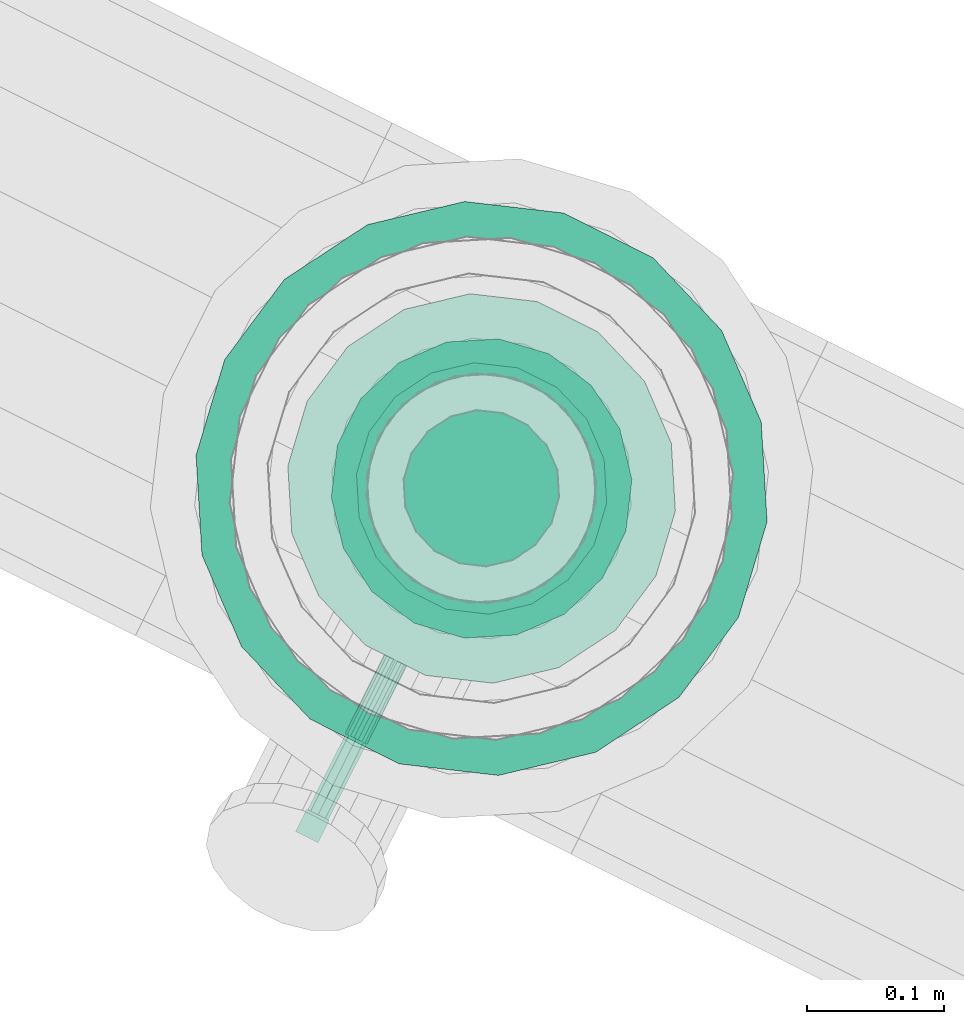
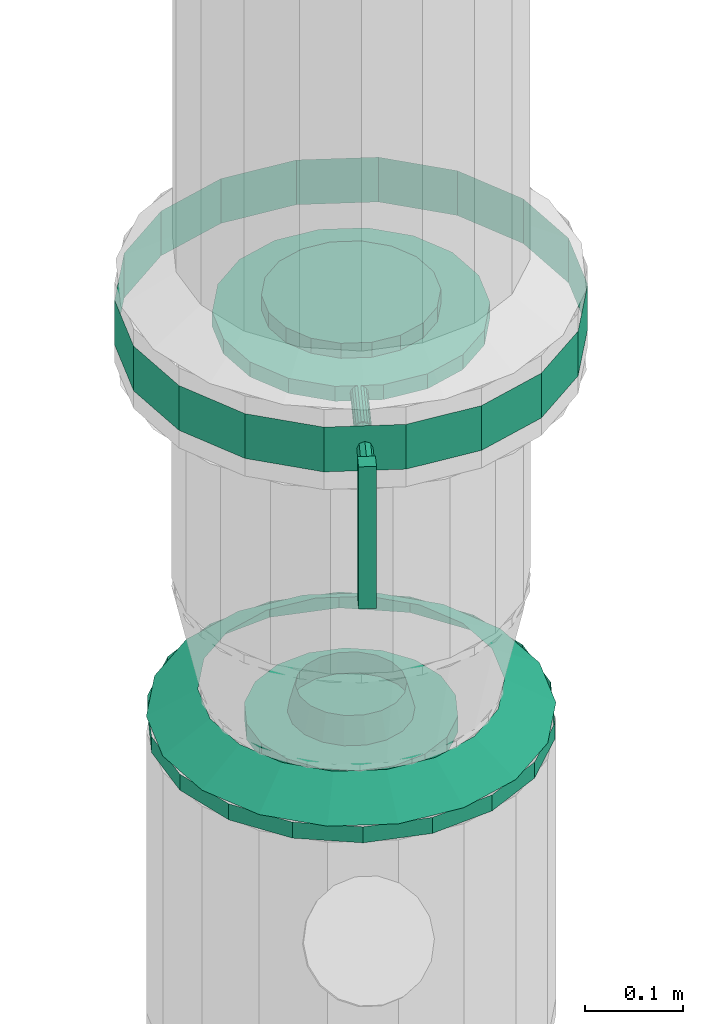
# One storey, part 60 of 152: 1 flow controller, 1 flow fitting.
"""IFC2X3 building model written with IfcOpenShell, lengths in metres."""

from ifc_helpers import new_model, si_unit, derived_unit, direction, frame, origin, place, context, subcontext, project, spatial, face_set, surface_model, source, transform, mapped, material, type_object, type_shapes, element, save


model = new_model("IFC2X3")

# Units and contexts
model_context = context("Model", 3, precision=5.2338327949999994e-05, world=origin(), true_north=direction((0.0, 1.0)))
body_context = subcontext(model_context, "Body", "Model", "MODEL_VIEW")
ifc_project = project(units=[si_unit("LENGTHUNIT", "METRE"), si_unit("AREAUNIT", "SQUARE_METRE"), si_unit("VOLUMEUNIT", "CUBIC_METRE"), si_unit("MASSUNIT", "GRAM", prefix="KILO"), si_unit("PLANEANGLEUNIT", "RADIAN"), derived_unit("THERMALTRANSMITTANCEUNIT", [(si_unit("MASSUNIT", "GRAM", prefix="KILO"), 1), (si_unit("THERMODYNAMICTEMPERATUREUNIT", "KELVIN"), -1), (si_unit("TIMEUNIT", "SECOND"), -3)])], contexts=[model_context])

# Site, building, storey
site_placement = place(None, frame((0.0, 0.0, 0.0), z_axis=(0.0, 0.0, 1.0), x_axis=(0.8939966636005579, -0.4480736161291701, 0.0)))
site = spatial("IfcSite", under=ifc_project, at=site_placement, Name="Default", CompositionType="ELEMENT")
building_placement = place(site_placement, origin())
building = spatial("IfcBuilding", under=site, at=building_placement, CompositionType="ELEMENT")
storey_placement = place(building_placement, frame((0.0, 0.0, 2.7499999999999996)))
storey = spatial("IfcBuildingStorey", under=building, at=storey_placement, Name="1. Obergeschoss", CompositionType="ELEMENT", Elevation=2.7499999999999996)

# Flow controller
ifc_material = material(Name="IfcSurfaceStyle #1741")
distribution_element_type_1 = type_object("IfcDistributionElementType", Name="Zwischenflanschklappe 614474:Zwischenflanschklappe 614474", material=ifc_material)
shared_shape_1 = source(origin(), body_context, "Body", "SurfaceModel", [
    surface_model("IfcFaceBasedSurfaceModel", [(25.449055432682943, 8.193115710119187, 4.2088834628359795), (25.449055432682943, 8.193115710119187, 4.38638346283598), (25.430655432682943, 8.193115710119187, 4.38638346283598), (25.430655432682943, 8.193115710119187, 4.2088834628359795), (25.430655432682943, 8.174715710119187, 4.386383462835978), (25.430655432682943, 8.174715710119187, 4.2088834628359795), (25.449055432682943, 8.174715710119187, 4.386383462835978), (25.449055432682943, 8.174715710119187, 4.2088834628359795), (25.347855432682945, 8.459715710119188, 4.349183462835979), (25.35340371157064, 8.428249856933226, 4.349183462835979), (25.35340371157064, 8.428249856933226, 4.367850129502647), (25.347855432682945, 8.459715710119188, 4.367850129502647), (25.36937934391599, 8.400579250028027, 4.349183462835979), (25.36937934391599, 8.400579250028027, 4.367850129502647), (25.393855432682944, 8.38004137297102, 4.349183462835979), (25.393855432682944, 8.38004137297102, 4.367850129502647), (25.423879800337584, 8.369113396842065, 4.349183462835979), (25.423879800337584, 8.369113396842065, 4.367850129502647), (25.455831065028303, 8.369113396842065, 4.349183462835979), (25.455831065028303, 8.369113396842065, 4.367850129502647), (25.485855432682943, 8.38004137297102, 4.349183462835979), (25.485855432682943, 8.38004137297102, 4.367850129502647), (25.51033152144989, 8.400579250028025, 4.349183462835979), (25.51033152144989, 8.400579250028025, 4.367850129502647), (25.52630715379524, 8.428249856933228, 4.349183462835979), (25.52630715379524, 8.428249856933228, 4.367850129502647), (25.531855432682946, 8.459715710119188, 4.349183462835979), (25.531855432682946, 8.459715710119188, 4.367850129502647), (25.526307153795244, 8.49118156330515, 4.349183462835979), (25.526307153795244, 8.49118156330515, 4.367850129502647), (25.51033152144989, 8.518852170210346, 4.349183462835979), (25.51033152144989, 8.518852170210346, 4.367850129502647), (25.485855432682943, 8.539390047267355, 4.349183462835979), (25.485855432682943, 8.539390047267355, 4.367850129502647), (25.455831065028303, 8.55031802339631, 4.349183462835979), (25.455831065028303, 8.55031802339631, 4.367850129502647), (25.423879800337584, 8.55031802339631, 4.349183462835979), (25.423879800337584, 8.55031802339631, 4.367850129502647), (25.393855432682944, 8.539390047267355, 4.349183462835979), (25.393855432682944, 8.539390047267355, 4.367850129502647), (25.36937934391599, 8.518852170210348, 4.349183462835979), (25.36937934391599, 8.518852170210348, 4.367850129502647), (25.35340371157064, 8.491181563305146, 4.349183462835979), (25.35340371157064, 8.491181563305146, 4.367850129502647), (25.43985543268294, 8.459715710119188, 4.349183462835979), (25.43985543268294, 8.459715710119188, 4.367850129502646), (25.29735543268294, 8.459715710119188, 4.367850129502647), (25.30594923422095, 8.410977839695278, 4.367850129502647), (25.30594923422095, 8.410977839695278, 4.386516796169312), (25.29735543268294, 8.459715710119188, 4.386516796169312), (25.33069409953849, 8.368118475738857, 4.367850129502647), (25.33069409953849, 8.368118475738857, 4.386516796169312), (25.368605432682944, 8.336307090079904, 4.367850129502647), (25.368605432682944, 8.336307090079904, 4.386516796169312), (25.415110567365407, 8.319380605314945, 4.367850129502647), (25.415110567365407, 8.319380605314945, 4.386516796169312), (25.46460029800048, 8.319380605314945, 4.367850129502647), (25.46460029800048, 8.319380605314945, 4.386516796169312), (25.511105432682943, 8.336307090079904, 4.367850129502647), (25.511105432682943, 8.336307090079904, 4.386516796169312), (25.549016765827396, 8.368118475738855, 4.367850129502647), (25.549016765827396, 8.368118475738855, 4.386516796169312), (25.57376163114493, 8.410977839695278, 4.367850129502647), (25.57376163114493, 8.410977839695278, 4.386516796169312), (25.582355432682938, 8.459715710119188, 4.367850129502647), (25.582355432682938, 8.459715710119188, 4.386516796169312), (25.57376163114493, 8.508453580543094, 4.367850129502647), (25.57376163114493, 8.508453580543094, 4.386516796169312), (25.549016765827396, 8.55131294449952, 4.367850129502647), (25.549016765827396, 8.55131294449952, 4.386516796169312), (25.511105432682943, 8.583124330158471, 4.367850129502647), (25.511105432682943, 8.583124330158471, 4.386516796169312), (25.46460029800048, 8.600050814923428, 4.367850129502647), (25.46460029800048, 8.600050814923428, 4.386516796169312), (25.415110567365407, 8.600050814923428, 4.367850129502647), (25.415110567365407, 8.600050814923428, 4.386516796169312), (25.368605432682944, 8.583124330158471, 4.367850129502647), (25.368605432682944, 8.583124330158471, 4.386516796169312), (25.33069409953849, 8.55131294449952, 4.367850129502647), (25.33069409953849, 8.55131294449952, 4.386516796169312), (25.30594923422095, 8.50845358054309, 4.367850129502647), (25.30594923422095, 8.50845358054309, 4.386516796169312), (25.43985543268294, 8.459715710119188, 4.386516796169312), (25.347855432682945, 8.459715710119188, 4.386516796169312), (25.35340371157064, 8.428249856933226, 4.386516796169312), (25.35340371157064, 8.428249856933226, 4.4051834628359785), (25.347855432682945, 8.459715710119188, 4.4051834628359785), (25.36937934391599, 8.400579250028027, 4.386516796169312), (25.36937934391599, 8.400579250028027, 4.4051834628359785), (25.393855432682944, 8.38004137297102, 4.386516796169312), (25.393855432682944, 8.38004137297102, 4.4051834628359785), (25.423879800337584, 8.369113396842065, 4.386516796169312), (25.423879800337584, 8.369113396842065, 4.4051834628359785), (25.455831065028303, 8.369113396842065, 4.386516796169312), (25.455831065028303, 8.369113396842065, 4.4051834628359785), (25.485855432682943, 8.38004137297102, 4.386516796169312), (25.485855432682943, 8.38004137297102, 4.4051834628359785), (25.51033152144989, 8.400579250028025, 4.386516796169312), (25.51033152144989, 8.400579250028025, 4.4051834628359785), (25.52630715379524, 8.428249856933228, 4.386516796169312), (25.52630715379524, 8.428249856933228, 4.4051834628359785), (25.531855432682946, 8.459715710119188, 4.386516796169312), (25.531855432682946, 8.459715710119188, 4.4051834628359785), (25.526307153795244, 8.49118156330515, 4.386516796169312), (25.526307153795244, 8.49118156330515, 4.4051834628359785), (25.51033152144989, 8.518852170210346, 4.386516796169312), (25.51033152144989, 8.518852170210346, 4.4051834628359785), (25.485855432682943, 8.539390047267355, 4.386516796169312), (25.485855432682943, 8.539390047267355, 4.4051834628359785), (25.455831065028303, 8.55031802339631, 4.386516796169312), (25.455831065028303, 8.55031802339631, 4.4051834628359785), (25.423879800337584, 8.55031802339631, 4.386516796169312), (25.423879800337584, 8.55031802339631, 4.4051834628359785), (25.393855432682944, 8.539390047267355, 4.386516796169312), (25.393855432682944, 8.539390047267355, 4.4051834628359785), (25.36937934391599, 8.518852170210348, 4.386516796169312), (25.36937934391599, 8.518852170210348, 4.4051834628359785), (25.35340371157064, 8.491181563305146, 4.386516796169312), (25.35340371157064, 8.491181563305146, 4.4051834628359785), (25.43985543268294, 8.459715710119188, 4.4051834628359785), (25.43052209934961, 8.459715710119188, 4.377183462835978), (25.431084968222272, 8.459715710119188, 4.373991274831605), (25.431084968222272, 8.255165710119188, 4.373991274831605), (25.43052209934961, 8.255165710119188, 4.377183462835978), (25.432705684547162, 8.459715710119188, 4.371184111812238), (25.432705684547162, 8.255165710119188, 4.371184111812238), (25.43518876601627, 8.459715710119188, 4.369100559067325), (25.43518876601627, 8.255165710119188, 4.369100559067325), (25.43823471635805, 8.459715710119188, 4.367991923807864), (25.43823471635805, 8.255165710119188, 4.367991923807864), (25.441476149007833, 8.459715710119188, 4.367991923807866), (25.441476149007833, 8.255165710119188, 4.367991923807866), (25.444522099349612, 8.459715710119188, 4.369100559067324), (25.444522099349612, 8.255165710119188, 4.369100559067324), (25.447005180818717, 8.459715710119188, 4.371184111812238), (25.447005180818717, 8.255165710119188, 4.371184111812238), (25.448625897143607, 8.459715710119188, 4.373991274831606), (25.448625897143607, 8.255165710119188, 4.373991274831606), (25.449188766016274, 8.459715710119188, 4.377183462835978), (25.449188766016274, 8.255165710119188, 4.377183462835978), (25.448625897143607, 8.459715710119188, 4.380375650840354), (25.448625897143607, 8.255165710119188, 4.380375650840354), (25.447005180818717, 8.459715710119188, 4.383182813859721), (25.447005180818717, 8.255165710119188, 4.383182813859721), (25.444522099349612, 8.459715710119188, 4.385266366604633), (25.444522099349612, 8.255165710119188, 4.385266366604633), (25.441476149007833, 8.459715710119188, 4.386375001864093), (25.441476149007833, 8.255165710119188, 4.386375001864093), (25.43823471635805, 8.459715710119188, 4.386375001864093), (25.43823471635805, 8.255165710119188, 4.386375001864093), (25.43518876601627, 8.459715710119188, 4.385266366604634), (25.43518876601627, 8.255165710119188, 4.385266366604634), (25.432705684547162, 8.459715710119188, 4.383182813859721), (25.432705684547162, 8.255165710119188, 4.383182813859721), (25.431084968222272, 8.459715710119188, 4.380375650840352), (25.431084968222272, 8.255165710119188, 4.380375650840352), (25.43985543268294, 8.459715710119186, 4.377183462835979), (25.43985543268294, 8.255165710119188, 4.377183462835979), (25.431440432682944, 8.255165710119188, 4.377183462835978), (25.43390512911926, 8.255165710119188, 4.371233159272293), (25.43390512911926, 8.193115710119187, 4.371233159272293), (25.431440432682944, 8.193115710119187, 4.377183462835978), (25.43985543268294, 8.255165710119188, 4.3687684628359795), (25.43985543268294, 8.193115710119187, 4.3687684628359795), (25.445805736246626, 8.255165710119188, 4.371233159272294), (25.445805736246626, 8.193115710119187, 4.371233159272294), (25.44827043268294, 8.255165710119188, 4.377183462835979), (25.44827043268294, 8.193115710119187, 4.377183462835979), (25.445805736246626, 8.255165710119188, 4.383133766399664), (25.445805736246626, 8.193115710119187, 4.383133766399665), (25.43985543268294, 8.255165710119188, 4.38559846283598), (25.43985543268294, 8.193115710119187, 4.38559846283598), (25.43390512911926, 8.255165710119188, 4.383133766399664), (25.43390512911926, 8.193115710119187, 4.383133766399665), (25.43985543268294, 8.193115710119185, 4.377183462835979), (25.19735543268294, 8.459715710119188, 4.349183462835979), (25.21197997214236, 8.376775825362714, 4.349183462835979), (25.21197997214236, 8.376775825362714, 4.4051834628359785), (25.19735543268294, 8.459715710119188, 4.4051834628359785), (25.25408965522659, 8.303839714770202, 4.349183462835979), (25.25408965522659, 8.303839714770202, 4.4051834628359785), (25.318605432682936, 8.249704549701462, 4.349183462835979), (25.318605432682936, 8.249704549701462, 4.4051834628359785), (25.397745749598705, 8.220899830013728, 4.349183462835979), (25.397745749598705, 8.220899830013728, 4.4051834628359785), (25.48196511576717, 8.220899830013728, 4.349183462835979), (25.48196511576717, 8.220899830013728, 4.4051834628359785), (25.56110543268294, 8.24970454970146, 4.349183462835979), (25.56110543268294, 8.24970454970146, 4.4051834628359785), (25.625621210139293, 8.3038397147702, 4.349183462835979), (25.625621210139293, 8.3038397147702, 4.4051834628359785), (25.66773089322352, 8.376775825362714, 4.349183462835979), (25.66773089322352, 8.376775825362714, 4.4051834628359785), (25.682355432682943, 8.459715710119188, 4.349183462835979), (25.682355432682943, 8.459715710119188, 4.4051834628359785), (25.667730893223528, 8.542655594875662, 4.349183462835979), (25.667730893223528, 8.542655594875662, 4.4051834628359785), (25.625621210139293, 8.615591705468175, 4.349183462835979), (25.625621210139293, 8.615591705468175, 4.4051834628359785), (25.56110543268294, 8.669726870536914, 4.349183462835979), (25.56110543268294, 8.669726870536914, 4.4051834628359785), (25.48196511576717, 8.698531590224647, 4.349183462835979), (25.48196511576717, 8.698531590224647, 4.4051834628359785), (25.397745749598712, 8.698531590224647, 4.349183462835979), (25.397745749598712, 8.698531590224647, 4.4051834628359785), (25.318605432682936, 8.669726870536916, 4.349183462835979), (25.318605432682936, 8.669726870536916, 4.4051834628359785), (25.25408965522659, 8.615591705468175, 4.349183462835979), (25.25408965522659, 8.615591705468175, 4.4051834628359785), (25.21197997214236, 8.542655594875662, 4.349183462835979), (25.21197997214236, 8.542655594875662, 4.4051834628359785)], [face_set([[[0, 1, 2, 3]], [[3, 2, 4, 5]], [[5, 4, 6, 7]], [[7, 6, 1, 0]], [[0, 3, 5, 7]], [[6, 4, 2, 1]], [[8, 9, 10, 11]], [[9, 12, 13, 10]], [[12, 14, 15, 13]], [[14, 16, 17, 15]], [[16, 18, 19, 17]], [[18, 20, 21, 19]], [[20, 22, 23, 21]], [[22, 24, 25, 23]], [[24, 26, 27, 25]], [[26, 28, 29, 27]], [[28, 30, 31, 29]], [[30, 32, 33, 31]], [[32, 34, 35, 33]], [[34, 36, 37, 35]], [[36, 38, 39, 37]], [[38, 40, 41, 39]], [[40, 42, 43, 41]], [[42, 8, 11, 43]], [[44, 9, 8]], [[44, 12, 9]], [[44, 14, 12]], [[44, 16, 14]], [[44, 18, 16]], [[44, 20, 18]], [[44, 22, 20]], [[44, 24, 22]], [[44, 26, 24]], [[44, 28, 26]], [[44, 30, 28]], [[44, 32, 30]], [[44, 34, 32]], [[44, 36, 34]], [[44, 38, 36]], [[44, 40, 38]], [[44, 42, 40]], [[44, 8, 42]], [[45, 43, 11]], [[45, 41, 43]], [[45, 39, 41]], [[45, 37, 39]], [[45, 35, 37]], [[45, 33, 35]], [[45, 31, 33]], [[45, 29, 31]], [[45, 27, 29]], [[45, 25, 27]], [[45, 23, 25]], [[45, 21, 23]], [[45, 19, 21]], [[45, 17, 19]], [[45, 15, 17]], [[45, 13, 15]], [[45, 10, 13]], [[45, 11, 10]], [[46, 47, 48, 49]], [[47, 50, 51, 48]], [[50, 52, 53, 51]], [[52, 54, 55, 53]], [[54, 56, 57, 55]], [[56, 58, 59, 57]], [[58, 60, 61, 59]], [[60, 62, 63, 61]], [[62, 64, 65, 63]], [[64, 66, 67, 65]], [[66, 68, 69, 67]], [[68, 70, 71, 69]], [[70, 72, 73, 71]], [[72, 74, 75, 73]], [[74, 76, 77, 75]], [[76, 78, 79, 77]], [[78, 80, 81, 79]], [[80, 46, 49, 81]], [[45, 47, 46]], [[45, 50, 47]], [[45, 52, 50]], [[45, 54, 52]], [[45, 56, 54]], [[45, 58, 56]], [[45, 60, 58]], [[45, 62, 60]], [[45, 64, 62]], [[45, 66, 64]], [[45, 68, 66]], [[45, 70, 68]], [[45, 72, 70]], [[45, 74, 72]], [[45, 76, 74]], [[45, 78, 76]], [[45, 80, 78]], [[45, 46, 80]], [[82, 81, 49]], [[82, 79, 81]], [[82, 77, 79]], [[82, 75, 77]], [[82, 73, 75]], [[82, 71, 73]], [[82, 69, 71]], [[82, 67, 69]], [[82, 65, 67]], [[82, 63, 65]], [[82, 61, 63]], [[82, 59, 61]], [[82, 57, 59]], [[82, 55, 57]], [[82, 53, 55]], [[82, 51, 53]], [[82, 48, 51]], [[82, 49, 48]], [[83, 84, 85, 86]], [[84, 87, 88, 85]], [[87, 89, 90, 88]], [[89, 91, 92, 90]], [[91, 93, 94, 92]], [[93, 95, 96, 94]], [[95, 97, 98, 96]], [[97, 99, 100, 98]], [[99, 101, 102, 100]], [[101, 103, 104, 102]], [[103, 105, 106, 104]], [[105, 107, 108, 106]], [[107, 109, 110, 108]], [[109, 111, 112, 110]], [[111, 113, 114, 112]], [[113, 115, 116, 114]], [[115, 117, 118, 116]], [[117, 83, 86, 118]], [[82, 84, 83]], [[82, 87, 84]], [[82, 89, 87]], [[82, 91, 89]], [[82, 93, 91]], [[82, 95, 93]], [[82, 97, 95]], [[82, 99, 97]], [[82, 101, 99]], [[82, 103, 101]], [[82, 105, 103]], [[82, 107, 105]], [[82, 109, 107]], [[82, 111, 109]], [[82, 113, 111]], [[82, 115, 113]], [[82, 117, 115]], [[82, 83, 117]], [[119, 118, 86]], [[119, 116, 118]], [[119, 114, 116]], [[119, 112, 114]], [[119, 110, 112]], [[119, 108, 110]], [[119, 106, 108]], [[119, 104, 106]], [[119, 102, 104]], [[119, 100, 102]], [[119, 98, 100]], [[119, 96, 98]], [[119, 94, 96]], [[119, 92, 94]], [[119, 90, 92]], [[119, 88, 90]], [[119, 85, 88]], [[119, 86, 85]], [[120, 121, 122, 123]], [[121, 124, 125, 122]], [[124, 126, 127, 125]], [[126, 128, 129, 127]], [[128, 130, 131, 129]], [[130, 132, 133, 131]], [[132, 134, 135, 133]], [[134, 136, 137, 135]], [[136, 138, 139, 137]], [[138, 140, 141, 139]], [[140, 142, 143, 141]], [[142, 144, 145, 143]], [[144, 146, 147, 145]], [[146, 148, 149, 147]], [[148, 150, 151, 149]], [[150, 152, 153, 151]], [[152, 154, 155, 153]], [[154, 120, 123, 155]], [[156, 121, 120]], [[156, 124, 121]], [[156, 126, 124]], [[156, 128, 126]], [[156, 130, 128]], [[156, 132, 130]], [[156, 134, 132]], [[156, 136, 134]], [[156, 138, 136]], [[156, 140, 138]], [[156, 142, 140]], [[156, 144, 142]], [[156, 146, 144]], [[156, 148, 146]], [[156, 150, 148]], [[156, 152, 150]], [[156, 154, 152]], [[156, 120, 154]], [[157, 155, 123]], [[157, 153, 155]], [[157, 151, 153]], [[157, 149, 151]], [[157, 147, 149]], [[157, 145, 147]], [[157, 143, 145]], [[157, 141, 143]], [[157, 139, 141]], [[157, 137, 139]], [[157, 135, 137]], [[157, 133, 135]], [[157, 131, 133]], [[157, 129, 131]], [[157, 127, 129]], [[157, 125, 127]], [[157, 122, 125]], [[157, 123, 122]], [[158, 159, 160, 161]], [[159, 162, 163, 160]], [[162, 164, 165, 163]], [[164, 166, 167, 165]], [[166, 168, 169, 167]], [[168, 170, 171, 169]], [[170, 172, 173, 171]], [[172, 158, 161, 173]], [[174, 173, 161]], [[174, 171, 173]], [[174, 169, 171]], [[174, 167, 169]], [[174, 165, 167]], [[174, 163, 165]], [[174, 160, 163]], [[174, 161, 160]], [[175, 176, 177, 178]], [[176, 179, 180, 177]], [[179, 181, 182, 180]], [[181, 183, 184, 182]], [[183, 185, 186, 184]], [[185, 187, 188, 186]], [[187, 189, 190, 188]], [[189, 191, 192, 190]], [[191, 193, 194, 192]], [[193, 195, 196, 194]], [[195, 197, 198, 196]], [[197, 199, 200, 198]], [[199, 201, 202, 200]], [[201, 203, 204, 202]], [[203, 205, 206, 204]], [[205, 207, 208, 206]], [[207, 209, 210, 208]], [[209, 175, 178, 210]]])]),
])
type_shapes(distribution_element_type_1, [shared_shape_1])
flow_controller_placement = place(storey_placement, frame((0.0, 0.0, -2.7499999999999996)))
element("IfcFlowController", 1, at=flow_controller_placement, inside=storey, type_object=distribution_element_type_1, material=ifc_material, Name="Zwischenflanschklappe", ObjectType="Zwischenflanschklappe", context=body_context, shape_type="MappedRepresentation", body=[
    mapped(shared_shape_1, transform((0.0, 0.0, 0.0), scale=1.0)),
])

# Flow fitting
distribution_element_type_2 = type_object("IfcDistributionElementType", Name="Flansch 614497:Flansch 614497", material=ifc_material)
shared_shape_2 = source(origin(), body_context, "Body", "SurfaceModel", [
    surface_model("IfcFaceBasedSurfaceModel", [(25.43985543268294, 8.569715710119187, 3.863870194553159), (25.402233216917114, 8.563081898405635, 3.863870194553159), (25.402233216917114, 8.563081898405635, 3.8838701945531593), (25.43985543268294, 8.569715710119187, 3.8838701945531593), (25.369148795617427, 8.543980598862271, 3.863870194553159), (25.369148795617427, 8.543980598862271, 3.8838701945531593), (25.344592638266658, 8.514715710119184, 3.863870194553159), (25.344592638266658, 8.514715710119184, 3.8838701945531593), (25.3315265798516, 8.478817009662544, 3.863870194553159), (25.3315265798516, 8.478817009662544, 3.8838701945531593), (25.3315265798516, 8.440614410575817, 3.863870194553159), (25.3315265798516, 8.440614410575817, 3.8838701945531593), (25.344592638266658, 8.404715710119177, 3.863870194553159), (25.344592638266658, 8.404715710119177, 3.8838701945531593), (25.369148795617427, 8.375450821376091, 3.863870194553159), (25.369148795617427, 8.375450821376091, 3.8838701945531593), (25.402233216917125, 8.356349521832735, 3.863870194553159), (25.402233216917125, 8.356349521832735, 3.8838701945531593), (25.439855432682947, 8.349715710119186, 3.863870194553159), (25.439855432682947, 8.349715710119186, 3.8838701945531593), (25.47747764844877, 8.356349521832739, 3.863870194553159), (25.47747764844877, 8.356349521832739, 3.8838701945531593), (25.510562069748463, 8.375450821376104, 3.863870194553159), (25.510562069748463, 8.375450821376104, 3.8838701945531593), (25.535118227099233, 8.404715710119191, 3.863870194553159), (25.535118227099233, 8.404715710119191, 3.8838701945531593), (25.548184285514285, 8.440614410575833, 3.863870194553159), (25.548184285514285, 8.440614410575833, 3.8838701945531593), (25.548184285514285, 8.478817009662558, 3.863870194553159), (25.548184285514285, 8.478817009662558, 3.8838701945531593), (25.53511822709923, 8.514715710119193, 3.863870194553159), (25.53511822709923, 8.514715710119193, 3.8838701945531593), (25.510562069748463, 8.54398059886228, 3.863870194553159), (25.510562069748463, 8.54398059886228, 3.8838701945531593), (25.477477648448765, 8.563081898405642, 3.863870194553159), (25.477477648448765, 8.563081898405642, 3.8838701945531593), (25.43985543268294, 8.459715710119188, 3.8838701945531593), (25.374355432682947, 8.459715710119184, 3.8838701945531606), (25.37830556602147, 8.437313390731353, 3.8838701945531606), (25.38615199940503, 8.44016925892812, 3.9158701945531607), (25.38270543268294, 8.459715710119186, 3.9158701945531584), (25.389679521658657, 8.417613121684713, 3.8838701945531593), (25.396075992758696, 8.422980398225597, 3.915870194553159), (25.407105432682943, 8.402991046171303, 3.8838701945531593), (25.411280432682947, 8.410222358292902, 3.915870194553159), (25.428481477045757, 8.395210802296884, 3.8838701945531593), (25.42993143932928, 8.403433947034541, 3.915870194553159), (25.451229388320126, 8.395210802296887, 3.8838701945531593), (25.449779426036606, 8.40343394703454, 3.915870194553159), (25.472605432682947, 8.402991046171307, 3.8838701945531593), (25.468430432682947, 8.41022235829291, 3.915870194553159), (25.490031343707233, 8.417613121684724, 3.8838701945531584), (25.483634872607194, 8.422980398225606, 3.9158701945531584), (25.50140529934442, 8.437313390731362, 3.8838701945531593), (25.49355886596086, 8.44016925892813, 3.915870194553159), (25.505355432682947, 8.459715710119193, 3.8838701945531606), (25.497005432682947, 8.459715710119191, 3.9158701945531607), (25.50140529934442, 8.482118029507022, 3.8838701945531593), (25.49355886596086, 8.479262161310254, 3.915870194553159), (25.490031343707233, 8.50181829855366, 3.8838701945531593), (25.483634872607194, 8.496451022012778, 3.915870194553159), (25.472605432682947, 8.516440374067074, 3.8838701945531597), (25.46843043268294, 8.509209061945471, 3.9158701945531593), (25.451229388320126, 8.524220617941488, 3.8838701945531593), (25.449779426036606, 8.515997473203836, 3.915870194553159), (25.428481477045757, 8.524220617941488, 3.8838701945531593), (25.42993143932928, 8.515997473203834, 3.915870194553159), (25.407105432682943, 8.516440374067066, 3.8838701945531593), (25.411280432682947, 8.509209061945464, 3.915870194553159), (25.389679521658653, 8.501818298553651, 3.8838701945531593), (25.396075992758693, 8.49645102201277, 3.915870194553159), (25.37830556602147, 8.482118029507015, 3.8838701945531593), (25.38615199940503, 8.479262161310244, 3.915870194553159), (25.43985543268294, 8.669715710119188, 3.863870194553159), (25.368031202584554, 8.657051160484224, 3.863870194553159), (25.368031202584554, 8.657051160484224, 3.8838701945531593), (25.439855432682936, 8.669715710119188, 3.88387019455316), (25.30487003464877, 8.620585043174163, 3.863870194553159), (25.30487003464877, 8.620585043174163, 3.8838701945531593), (25.257990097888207, 8.564715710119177, 3.863870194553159), (25.257990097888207, 8.564715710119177, 3.8838701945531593), (25.233045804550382, 8.49618182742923, 3.863870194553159), (25.233045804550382, 8.49618182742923, 3.8838701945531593), (25.233045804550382, 8.42324959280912, 3.863870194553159), (25.233045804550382, 8.42324959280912, 3.8838701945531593), (25.257990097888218, 8.354715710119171, 3.863870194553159), (25.257990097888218, 8.354715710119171, 3.8838701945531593), (25.304870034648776, 8.298846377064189, 3.863870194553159), (25.304870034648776, 8.298846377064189, 3.8838701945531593), (25.36803120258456, 8.26238025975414, 3.863870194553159), (25.36803120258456, 8.26238025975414, 3.8838701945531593), (25.43985543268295, 8.249715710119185, 3.863870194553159), (25.43985543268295, 8.249715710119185, 3.8838701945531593), (25.511679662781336, 8.26238025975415, 3.863870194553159), (25.511679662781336, 8.26238025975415, 3.8838701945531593), (25.574840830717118, 8.298846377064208, 3.863870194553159), (25.574840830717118, 8.298846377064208, 3.8838701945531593), (25.621720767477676, 8.3547157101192, 3.863870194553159), (25.621720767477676, 8.3547157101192, 3.8838701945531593), (25.646665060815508, 8.423249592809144, 3.863870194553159), (25.646665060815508, 8.423249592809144, 3.8838701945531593), (25.646665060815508, 8.496181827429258, 3.863870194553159), (25.646665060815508, 8.496181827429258, 3.8838701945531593), (25.62172076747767, 8.5647157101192, 3.863870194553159), (25.62172076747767, 8.5647157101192, 3.8838701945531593), (25.574840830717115, 8.62058504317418, 3.863870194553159), (25.574840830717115, 8.62058504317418, 3.8838701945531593), (25.51167966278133, 8.657051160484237, 3.863870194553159), (25.51167966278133, 8.657051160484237, 3.8838701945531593), (25.22985543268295, 8.459715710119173, 3.883870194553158), (25.242519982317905, 8.387891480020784, 3.883870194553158), (25.29218273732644, 8.40596724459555, 3.915870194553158), (25.282705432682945, 8.459715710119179, 3.915870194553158), (25.278986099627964, 8.324730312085, 3.8838701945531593), (25.3194715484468, 8.358701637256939, 3.915870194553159), (25.33485543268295, 8.277850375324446, 3.8838701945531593), (25.361280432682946, 8.323619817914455, 3.915870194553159), (25.40338931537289, 8.252906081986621, 3.8838701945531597), (25.41256662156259, 8.304953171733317, 3.9158701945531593), (25.476321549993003, 8.252906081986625, 3.8838701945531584), (25.467144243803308, 8.304953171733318, 3.9158701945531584), (25.544855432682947, 8.277850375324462, 3.8838701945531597), (25.518430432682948, 8.323619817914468, 3.9158701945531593), (25.60072476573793, 8.324730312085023, 3.8838701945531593), (25.560239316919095, 8.358701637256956, 3.915870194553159), (25.637190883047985, 8.38789148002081, 3.8838701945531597), (25.58752812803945, 8.405967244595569, 3.9158701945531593), (25.649855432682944, 8.4597157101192, 3.883870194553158), (25.597005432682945, 8.4597157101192, 3.915870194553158), (25.637190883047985, 8.531539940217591, 3.883870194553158), (25.58752812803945, 8.513464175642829, 3.915870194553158), (25.600724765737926, 8.594701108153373, 3.8838701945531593), (25.56023931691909, 8.560729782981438, 3.915870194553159), (25.54485543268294, 8.641581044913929, 3.88387019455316), (25.518430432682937, 8.595811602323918, 3.9158701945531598), (25.476321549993, 8.666525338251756, 3.8838701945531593), (25.467144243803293, 8.614478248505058, 3.915870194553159), (25.403389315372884, 8.66652533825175, 3.8838701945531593), (25.412566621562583, 8.614478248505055, 3.915870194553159), (25.334855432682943, 8.641581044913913, 3.8838701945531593), (25.36128043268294, 8.595811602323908, 3.915870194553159), (25.278986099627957, 8.594701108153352, 3.88387019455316), (25.319471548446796, 8.56072978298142, 3.9158701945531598), (25.2425199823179, 8.531539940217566, 3.8838701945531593), (25.29218273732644, 8.513464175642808, 3.915870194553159)], [face_set([[[0, 1, 2, 3]], [[1, 4, 5, 2]], [[4, 6, 7, 5]], [[6, 8, 9, 7]], [[8, 10, 11, 9]], [[10, 12, 13, 11]], [[12, 14, 15, 13]], [[14, 16, 17, 15]], [[16, 18, 19, 17]], [[18, 20, 21, 19]], [[20, 22, 23, 21]], [[22, 24, 25, 23]], [[24, 26, 27, 25]], [[26, 28, 29, 27]], [[28, 30, 31, 29]], [[30, 32, 33, 31]], [[32, 34, 35, 33]], [[34, 0, 3, 35]], [[36, 35, 3]], [[36, 33, 35]], [[36, 31, 33]], [[36, 29, 31]], [[36, 27, 29]], [[36, 25, 27]], [[36, 23, 25]], [[36, 21, 23]], [[36, 19, 21]], [[36, 17, 19]], [[36, 15, 17]], [[36, 13, 15]], [[36, 11, 13]], [[36, 9, 11]], [[36, 7, 9]], [[36, 5, 7]], [[36, 2, 5]], [[36, 3, 2]], [[37, 38, 39, 40]], [[38, 41, 42, 39]], [[41, 43, 44, 42]], [[43, 45, 46, 44]], [[45, 47, 48, 46]], [[47, 49, 50, 48]], [[49, 51, 52, 50]], [[51, 53, 54, 52]], [[53, 55, 56, 54]], [[55, 57, 58, 56]], [[57, 59, 60, 58]], [[59, 61, 62, 60]], [[61, 63, 64, 62]], [[63, 65, 66, 64]], [[65, 67, 68, 66]], [[67, 69, 70, 68]], [[69, 71, 72, 70]], [[71, 37, 40, 72]], [[73, 74, 75, 76]], [[74, 77, 78, 75]], [[77, 79, 80, 78]], [[79, 81, 82, 80]], [[81, 83, 84, 82]], [[83, 85, 86, 84]], [[85, 87, 88, 86]], [[87, 89, 90, 88]], [[89, 91, 92, 90]], [[91, 93, 94, 92]], [[93, 95, 96, 94]], [[95, 97, 98, 96]], [[97, 99, 100, 98]], [[99, 101, 102, 100]], [[101, 103, 104, 102]], [[103, 105, 106, 104]], [[105, 107, 108, 106]], [[107, 73, 76, 108]], [[109, 110, 111, 112]], [[110, 113, 114, 111]], [[113, 115, 116, 114]], [[115, 117, 118, 116]], [[117, 119, 120, 118]], [[119, 121, 122, 120]], [[121, 123, 124, 122]], [[123, 125, 126, 124]], [[125, 127, 128, 126]], [[127, 129, 130, 128]], [[129, 131, 132, 130]], [[131, 133, 134, 132]], [[133, 135, 136, 134]], [[135, 137, 138, 136]], [[137, 139, 140, 138]], [[139, 141, 142, 140]], [[141, 143, 144, 142]], [[143, 109, 112, 144]]])]),
])
type_shapes(distribution_element_type_2, [shared_shape_2])
flow_fitting_placement = place(storey_placement, frame((0.0, 0.0, -2.7499999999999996)))
element("IfcFlowFitting", 2, at=flow_fitting_placement, inside=storey, type_object=distribution_element_type_2, material=ifc_material, Name="Flansch", ObjectType="Flansch", context=body_context, shape_type="MappedRepresentation", body=[
    mapped(shared_shape_2, transform((0.0, 0.0, 0.0), scale=1.0)),
])

save(model, "model.ifc")
